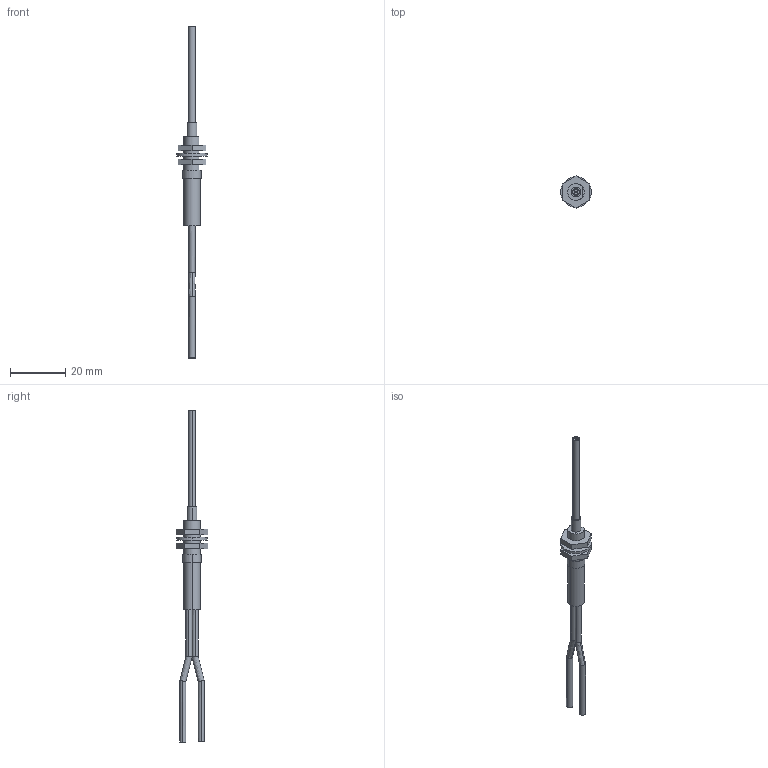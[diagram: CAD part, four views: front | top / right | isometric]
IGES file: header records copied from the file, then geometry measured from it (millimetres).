
Start section: SolidWorks IGES FILE using analytic representation for surfaces
Global section: file name: C:\Documents and Settings\yk0651\デスクトップ\3D_catalog_050904\0_IGES\FD-FM2S4.IGS; native system: SolidWorks 2004 by SolidWorks Corporation; preprocessor: Version 5.3; author: yk0651; date: 050904.183144; units: millimetre
Bounding box: 11 x 11.55 x 119.8 mm (x, y, z)
Volume: 1791.3 mm3; surface area: 2301.1 mm2
Topology: 4 solids, 4 shells, 62 faces, 138 edges, 92 vertices
Faces by surface type: revolution 33, plane 29
